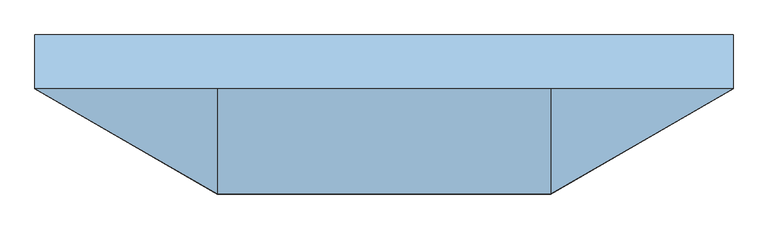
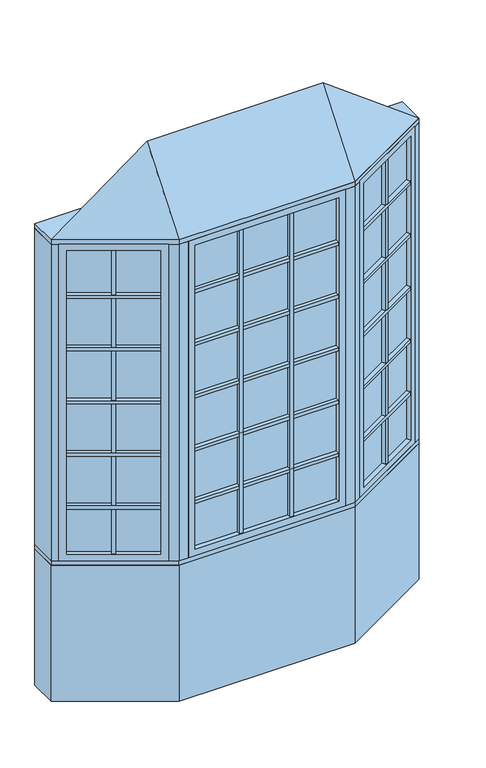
"""IFC4 building model written with IfcOpenShell, lengths in millimetres: window geometry, Pollard_Windows_Tudor Casement Bows and Bays : AML-BAY 30 AFR0518-10-500_GC."""

import ifcopenshell
import ifcopenshell.guid

model = None  # the IFC model being written
_history = None  # IfcOwnerHistory: only IFC2X3 demands one
_inside = {}  # id of a spatial element -> (the spatial element, [elements in it])
_under = {}  # id of a project, library or spatial element -> (it, [spatial elements below it])
_declared = {}  # id of a project -> (the project, [libraries it declares])
_typed = {}  # id of a type object -> (the type object, [elements of that type])
_made_of = {}  # id of a material, layer set ... -> (it, [elements and type objects made of it])


def new_model(schema):
    """Start an empty IFC model of exactly this schema.

    Asked for "IFC4X3", IfcOpenShell would pick the latest addendum, in which some entities
    have other attributes; the version numbers below select the first issue.
    IFC2X3 requires an IfcOwnerHistory on every rooted entity: one is made here for all.
    """
    global model, _history
    if schema == "IFC4X3":
        model = ifcopenshell.file(schema_version=(4, 3, 0, 0))
    else:
        model = ifcopenshell.file(schema=schema)
    _inside.clear()
    _under.clear()
    _declared.clear()
    _typed.clear()
    _made_of.clear()
    _history = None
    if model.schema == "IFC2X3":
        org = make("IfcOrganization", Name="unknown")
        user = make(
            "IfcPersonAndOrganization",
            ThePerson=make("IfcPerson", FamilyName="unknown"),
            TheOrganization=org,
        )
        app = make(
            "IfcApplication",
            ApplicationDeveloper=org,
            Version="unknown",
            ApplicationFullName="unknown",
            ApplicationIdentifier="unknown",
        )
        _history = make(
            "IfcOwnerHistory",
            OwningUser=user,
            OwningApplication=app,
            ChangeAction="ADDED",
            CreationDate=0,
        )
    return model


def make(cls, **values):
    """One entity of the class cls with the attributes given. An attribute that is None is left unset."""
    return model.create_entity(
        cls, **{name: value for name, value in values.items() if value is not None}
    )


def rooted(cls, **values):
    """An entity with a GlobalId (a new one), such as an element, a storey or a relation."""
    return make(cls, GlobalId=ifcopenshell.guid.new(), OwnerHistory=_history, **values)


def si_unit(unit_type, name, prefix=None):
    """IfcSIUnit, for example si_unit("LENGTHUNIT", "METRE", prefix="MILLI")."""
    return make("IfcSIUnit", UnitType=unit_type, Prefix=prefix, Name=name)


def assignment(units):
    """IfcUnitAssignment: the units of a project."""
    return None if units is None else make("IfcUnitAssignment", Units=units)


def point(xyz):
    """IfcCartesianPoint."""
    return None if xyz is None else make("IfcCartesianPoint", Coordinates=xyz)


def direction(xyz):
    """IfcDirection."""
    return None if xyz is None else make("IfcDirection", DirectionRatios=xyz)


def frame(location, z_axis=None, x_axis=None):
    """IfcAxis2Placement3D, a coordinate frame: its origin and axes. An axis left out is left unset."""
    return make(
        "IfcAxis2Placement3D",
        Location=point(location),
        Axis=direction(z_axis),
        RefDirection=direction(x_axis),
    )


def origin():
    """The frame at (0, 0, 0) with its axes left unset."""
    return frame((0.0, 0.0, 0.0))


def origin_with_axes():
    """The frame at (0, 0, 0) with the z axis (0, 0, 1) and the x axis (1, 0, 0) written out."""
    return frame((0.0, 0.0, 0.0), z_axis=(0.0, 0.0, 1.0), x_axis=(1.0, 0.0, 0.0))


def place(relative_to, where):
    """IfcLocalPlacement: puts the frame where relative to a parent placement (None: the world)."""
    return make(
        "IfcLocalPlacement", PlacementRelTo=relative_to, RelativePlacement=where
    )


def context(
    kind, dimensions, precision=None, world=None, true_north=None, identifier=None
):
    """IfcGeometricRepresentationContext, for example the 3D "Model" context."""
    return make(
        "IfcGeometricRepresentationContext",
        ContextIdentifier=identifier,
        ContextType=kind,
        CoordinateSpaceDimension=dimensions,
        Precision=precision,
        WorldCoordinateSystem=world,
        TrueNorth=true_north,
    )


def project(units=None, contexts=None):
    """IfcProject with its units and contexts."""
    return rooted(
        "IfcProject",
        Name="project",
        RepresentationContexts=contexts,
        UnitsInContext=assignment(units),
    )


def spatial(cls, under=None, at=None, **own):
    """A site, building, storey or space (cls), placed at a placement, below another one or the project."""
    s = rooted(cls, ObjectPlacement=at, **own)
    if under is not None:
        _under.setdefault(under.id(), (under, []))[1].append(s)
    return s


def polyline(points):
    """IfcPolyline through the points."""
    return make("IfcPolyline", Points=[point(p) for p in points])


def outline(outer, holes=None, kind="AREA"):
    """IfcArbitraryClosedProfileDef: a profile drawn as a closed curve; with holes, ...WithVoids."""
    if holes is None:
        return make("IfcArbitraryClosedProfileDef", ProfileType=kind, OuterCurve=outer)
    return make(
        "IfcArbitraryProfileDefWithVoids",
        ProfileType=kind,
        OuterCurve=outer,
        InnerCurves=holes,
    )


def extrude(swept, where, along, depth):
    """IfcExtrudedAreaSolid: the profile swept, set in the frame where, extruded along a direction by depth."""
    return make(
        "IfcExtrudedAreaSolid",
        SweptArea=swept,
        Position=where,
        ExtrudedDirection=direction(along),
        Depth=depth,
    )


def faces_of(points, faces, orient=None, outer=None):
    """IfcFace entities. A face is a list of loops; a loop is a list of indices into points, from 0.

    orient and outer hold one flag for each loop. By default every Orientation is true, the
    first loop of a face is its IfcFaceOuterBound and the others are IfcFaceBound.
    """
    made = []
    for i, loops in enumerate(faces):
        bounds = []
        for j, loop in enumerate(loops):
            is_outer = j == 0 if outer is None else outer[i][j]
            bounds.append(
                make(
                    "IfcFaceOuterBound" if is_outer else "IfcFaceBound",
                    Bound=make("IfcPolyLoop", Polygon=[points[k] for k in loop]),
                    Orientation=True if orient is None else orient[i][j],
                )
            )
        made.append(make("IfcFace", Bounds=bounds))
    return made


def faceted_brep(points, faces, orient=None, outer=None, voids=None):
    """IfcFacetedBrep: a solid bounded by flat faces; with voids (closed shells), ...WithVoids."""
    shared = [point(p) for p in points]
    hull = make("IfcClosedShell", CfsFaces=faces_of(shared, faces, orient, outer))
    if voids is None:
        return make("IfcFacetedBrep", Outer=hull)
    return make(
        "IfcFacetedBrepWithVoids",
        Outer=hull,
        Voids=[
            make(cls, CfsFaces=faces_of(shared, fs, o, b)) for cls, fs, o, b in voids
        ],
    )


def shape(context_of_items, identifier, shape_type, items):
    """IfcShapeRepresentation: the items that make up one representation, for example the "Body"."""
    return make(
        "IfcShapeRepresentation",
        ContextOfItems=context_of_items,
        RepresentationIdentifier=identifier,
        RepresentationType=shape_type,
        Items=items,
    )


def source(mapping_origin, context_of_items, identifier, shape_type, items):
    """IfcRepresentationMap: a shape defined once, which mapped items show again and again."""
    return make(
        "IfcRepresentationMap",
        MappingOrigin=mapping_origin,
        MappedRepresentation=shape(context_of_items, identifier, shape_type, items),
    )


def transform(
    local_origin,
    x_axis=None,
    y_axis=None,
    z_axis=None,
    scale=None,
    scale2=None,
    scale3=None,
    uniform=True,
):
    """IfcCartesianTransformationOperator3D, or its non-uniform kind. x_axis, y_axis, z_axis: its Axis1, 2, 3."""
    if uniform:
        return make(
            "IfcCartesianTransformationOperator3D",
            Axis1=direction(x_axis),
            Axis2=direction(y_axis),
            LocalOrigin=point(local_origin),
            Scale=scale,
            Axis3=direction(z_axis),
        )
    return make(
        "IfcCartesianTransformationOperator3DnonUniform",
        Axis1=direction(x_axis),
        Axis2=direction(y_axis),
        LocalOrigin=point(local_origin),
        Scale=scale,
        Axis3=direction(z_axis),
        Scale2=scale2,
        Scale3=scale3,
    )


def mapped(mapping_source, mapping_target):
    """IfcMappedItem: shows the shape of a source again, moved by a transform."""
    return make(
        "IfcMappedItem", MappingSource=mapping_source, MappingTarget=mapping_target
    )


def made_of(thing, what):
    """Note that an element or type object is made of a material, layer set ...; save() writes the relation."""
    if what is not None:
        _made_of.setdefault(what.id(), (what, []))[1].append(thing)
    return thing


def element(
    cls,
    number,
    at=None,
    inside=None,
    cuts=None,
    type_object=None,
    material=None,
    context=None,
    identifier="Body",
    shape_type=None,
    held_by="IfcProductDefinitionShape",
    body=None,
    shapes=None,
    **own,
):
    """One element of the class cls, such as IfcWall. Its Tag is "e" and its number.

    at: its placement. inside: the storey or other place that contains it. cuts: it is an
    opening in that element (IfcRelVoidsElement). A single representation is given by context,
    identifier, shape_type and body (its items); several are given by shapes. held_by: the class
    of the entity that holds the representations. save() writes the other relations.
    """
    e = rooted(cls, Tag="e%d" % number, ObjectPlacement=at, **own)
    if body is not None:
        shapes = [shape(context, identifier, shape_type, body)]
    if shapes is not None:
        e.Representation = make(held_by, Representations=shapes)
    if inside is not None:
        _inside.setdefault(inside.id(), (inside, []))[1].append(e)
    if cuts is not None:
        rooted(
            "IfcRelVoidsElement", RelatingBuildingElement=cuts, RelatedOpeningElement=e
        )
    if type_object is not None:
        _typed.setdefault(type_object.id(), (type_object, []))[1].append(e)
    return made_of(e, material)


def aggregate(whole, parts):
    """IfcRelAggregates: a whole, such as a stair, and the parts it consists of."""
    return rooted("IfcRelAggregates", RelatingObject=whole, RelatedObjects=parts)


def save(model, path):
    """Write the relations noted so far, then the file.

    IfcRelAggregates (storeys below a building ...), IfcRelContainedInSpatialStructure (elements
    in a storey), IfcRelDefinesByType, IfcRelAssociatesMaterial and IfcRelDeclares: one each for
    every whole, place, type object, material and project.
    """
    for whole, parts in _under.values():
        aggregate(whole, parts)
    for where, things in _inside.values():
        rooted(
            "IfcRelContainedInSpatialStructure",
            RelatedElements=things,
            RelatingStructure=where,
        )
    for kind, things in _typed.values():
        rooted("IfcRelDefinesByType", RelatedObjects=things, RelatingType=kind)
    for what, things in _made_of.values():
        rooted("IfcRelAssociatesMaterial", RelatedObjects=things, RelatingMaterial=what)
    for by, libraries in _declared.values():
        rooted("IfcRelDeclares", RelatingContext=by, RelatedDefinitions=libraries)
    model.write(path)


def window_f2461791(model_context):
    return source(origin(), model_context, "Body", "SolidModel", [
        extrude(outline(polyline([(545.7305346, -327.3537343), (534.7305346, -308.3011754), (915.6135794, -88.3982469), (926.6135794, -107.4508058), (545.7305346, -327.3537343)])), frame((0.0, 0.0, 1690.998), z_axis=(0.0, 0.0, 1.0), x_axis=(1.0, 0.0, 0.0)), (0.0, 0.0, 1.0), 18.0),
        extrude(outline(polyline([(532.1905346, -303.9017664), (521.1905346, -284.8492075), (902.0735794, -64.946279), (913.0735794, -83.9988379), (532.1905346, -303.9017664)])), frame((0.0, 0.0, 1690.998), z_axis=(0.0, 0.0, 1.0), x_axis=(1.0, 0.0, 0.0)), (0.0, 0.0, 1.0), 18.0),
        extrude(outline(polyline([(545.7305346, -327.3537343), (534.7305346, -308.3011754), (915.6135794, -88.3982469), (926.6135794, -107.4508058), (545.7305346, -327.3537343)])), frame((0.0, 0.0, 1090.998), z_axis=(0.0, 0.0, 1.0), x_axis=(1.0, 0.0, 0.0)), (0.0, 0.0, 1.0), 18.0),
        extrude(outline(polyline([(532.1905346, -303.9017664), (521.1905346, -284.8492075), (902.0735794, -64.946279), (913.0735794, -83.9988379), (532.1905346, -303.9017664)])), frame((0.0, 0.0, 1090.998), z_axis=(0.0, 0.0, 1.0), x_axis=(1.0, 0.0, 0.0)), (0.0, 0.0, 1.0), 18.0),
        extrude(outline(polyline([(545.7305346, -327.3537343), (534.7305346, -308.3011754), (915.6135794, -88.3982469), (926.6135794, -107.4508058), (545.7305346, -327.3537343)])), frame((0.0, 0.0, 1390.998), z_axis=(0.0, 0.0, 1.0), x_axis=(1.0, 0.0, 0.0)), (0.0, 0.0, 1.0), 18.0),
        extrude(outline(polyline([(532.1905346, -303.9017664), (521.1905346, -284.8492075), (902.0735794, -64.946279), (913.0735794, -83.9988379), (532.1905346, -303.9017664)])), frame((0.0, 0.0, 1390.998), z_axis=(0.0, 0.0, 1.0), x_axis=(1.0, 0.0, 0.0)), (0.0, 0.0, 1.0), 18.0),
        extrude(outline(polyline([(545.7305346, -327.3537343), (534.7305346, -308.3011754), (915.6135794, -88.3982469), (926.6135794, -107.4508058), (545.7305346, -327.3537343)])), frame((0.0, 0.0, 1990.998), z_axis=(0.0, 0.0, 1.0), x_axis=(1.0, 0.0, 0.0)), (0.0, 0.0, 1.0), 18.0),
        extrude(outline(polyline([(532.1905346, -303.9017664), (521.1905346, -284.8492075), (902.0735794, -64.946279), (913.0735794, -83.9988379), (532.1905346, -303.9017664)])), frame((0.0, 0.0, 1990.998), z_axis=(0.0, 0.0, 1.0), x_axis=(1.0, 0.0, 0.0)), (0.0, 0.0, 1.0), 18.0),
        extrude(outline(polyline([(545.7305346, -327.3537343), (534.7305346, -308.3011754), (915.6135794, -88.3982469), (926.6135794, -107.4508058), (545.7305346, -327.3537343)])), frame((0.0, 0.0, 2290.998), z_axis=(0.0, 0.0, 1.0), x_axis=(1.0, 0.0, 0.0)), (0.0, 0.0, 1.0), 18.0),
        extrude(outline(polyline([(532.1905346, -303.9017664), (521.1905346, -284.8492075), (902.0735794, -64.946279), (913.0735794, -83.9988379), (532.1905346, -303.9017664)])), frame((0.0, 0.0, 2290.998), z_axis=(0.0, 0.0, 1.0), x_axis=(1.0, 0.0, 0.0)), (0.0, 0.0, 1.0), 18.0),
        extrude(outline(polyline([(732.9662856, -193.8497112), (743.9662856, -212.9022701), (728.3778284, -221.9022701), (717.3778284, -202.8497112), (732.9662856, -193.8497112)])), frame((0.0, 0.0, 835.8628), z_axis=(0.0, 0.0, 1.0), x_axis=(1.0, 0.0, 0.0)), (0.0, 0.0, 1.0), 1728.2704),
        extrude(outline(polyline([(730.4262856, -189.4503021), (714.8378284, -198.4503021), (703.8378284, -179.3977432), (719.4262856, -170.3977432), (730.4262856, -189.4503021)])), frame((0.0, 0.0, 835.8628), z_axis=(0.0, 0.0, 1.0), x_axis=(1.0, 0.0, 0.0)), (0.0, 0.0, 1.0), 1728.2704),
        extrude(outline(polyline([(926.612102, -82.0482469), (523.7320119, -314.6511754), (521.1920119, -310.2517664), (924.072102, -77.6488379), (926.612102, -82.0482469)])), frame((0.0, 0.0, 823.1628), z_axis=(0.0, 0.0, 1.0), x_axis=(1.0, 0.0, 0.0)), (0.0, 0.0, 1.0), 1753.6704),
        faceted_brep([(915.6135794, -88.3982469, 835.8628), (928.3135794, -110.3952922, 835.8628), (928.3135794, -110.3952922, 2564.1332), (915.6135794, -88.3982469, 2564.1332), (924.072102, -77.6488379, 823.1628), (926.612102, -82.0482469, 823.1628), (926.612102, -82.0482469, 2576.8332), (924.072102, -77.6488379, 2576.8332), (900.3735794, -62.0017926, 835.8628), (913.0735794, -83.9988379, 835.8628), (913.0735794, -83.9988379, 2564.1332), (900.3735794, -62.0017926, 2564.1332), (959.3734073, -92.4628922, 799.998), (931.4334073, -44.0693926, 799.998), (931.4334073, -44.0693926, 2599.998), (959.3734073, -92.4628922, 2599.998), (547.4305346, -330.2982207, 2564.1332), (534.7305346, -308.3011754, 2564.1332), (523.7320119, -314.6511754, 2576.8332), (521.1920119, -310.2517664, 2576.8332), (532.1905346, -303.9017664, 2564.1332), (519.4905346, -281.9047211, 2564.1332), (488.4307067, -299.8371211, 2599.998), (516.3707067, -348.2306207, 2599.998), (547.4305346, -330.2982207, 835.8628), (534.7305346, -308.3011754, 835.8628), (523.7320119, -314.6511754, 823.1628), (521.1920119, -310.2517664, 823.1628), (532.1905346, -303.9017664, 835.8628), (519.4905346, -281.9047211, 835.8628), (488.4307067, -299.8371211, 799.998), (516.3707067, -348.2306207, 799.998)], [[[0, 1, 2, 3]], [[4, 5, 6, 7]], [[8, 9, 10, 11]], [[12, 13, 14, 15]], [[3, 2, 16, 17]], [[7, 6, 18, 19]], [[11, 10, 20, 21]], [[15, 14, 22, 23]], [[17, 16, 24, 25]], [[19, 18, 26, 27]], [[21, 20, 28, 29]], [[23, 22, 30, 31]], [[25, 24, 1, 0]], [[5, 26, 18, 6], [3, 17, 25, 0]], [[27, 26, 5, 4]], [[7, 19, 27, 4], [9, 28, 20, 10]], [[29, 28, 9, 8]], [[13, 30, 22, 14], [11, 21, 29, 8]], [[31, 30, 13, 12]], [[15, 23, 31, 12], [1, 24, 16, 2]]]),
        extrude(outline(polyline([(145.3016788, -347.8306207), (145.3016788, -369.8306207), (127.3016788, -369.8306207), (127.3016788, -347.8306207), (145.3016788, -347.8306207)])), frame((0.0, 0.0, 835.8628), z_axis=(0.0, 0.0, 1.0), x_axis=(1.0, 0.0, 0.0)), (0.0, 0.0, 1.0), 1728.2704),
        extrude(outline(polyline([(145.3016788, -342.7506207), (127.3016788, -342.7506207), (127.3016788, -320.7506207), (145.3016788, -320.7506207), (145.3016788, -342.7506207)])), frame((0.0, 0.0, 835.8628), z_axis=(0.0, 0.0, 1.0), x_axis=(1.0, 0.0, 0.0)), (0.0, 0.0, 1.0), 1728.2704),
        extrude(outline(polyline([(-127.3016788, -347.8306207), (-127.3016788, -369.8306207), (-145.3016788, -369.8306207), (-145.3016788, -347.8306207), (-127.3016788, -347.8306207)])), frame((0.0, 0.0, 835.8628), z_axis=(0.0, 0.0, 1.0), x_axis=(1.0, 0.0, 0.0)), (0.0, 0.0, 1.0), 1728.2704),
        extrude(outline(polyline([(-127.3016788, -342.7506207), (-145.3016788, -342.7506207), (-145.3016788, -320.7506207), (-127.3016788, -320.7506207), (-127.3016788, -342.7506207)])), frame((0.0, 0.0, 835.8628), z_axis=(0.0, 0.0, 1.0), x_axis=(1.0, 0.0, 0.0)), (0.0, 0.0, 1.0), 1728.2704),
        extrude(outline(polyline([(-387.2046365, -369.8306207), (-387.2046365, -347.8306207), (387.2046365, -347.8306207), (387.2046365, -369.8306207), (-387.2046365, -369.8306207)])), frame((0.0, 0.0, 1090.998), z_axis=(0.0, 0.0, 1.0), x_axis=(1.0, 0.0, 0.0)), (0.0, 0.0, 1.0), 18.0),
        extrude(outline(polyline([(-387.2046365, -342.7506207), (-387.2046365, -320.7506207), (387.2046365, -320.7506207), (387.2046365, -342.7506207), (-387.2046365, -342.7506207)])), frame((0.0, 0.0, 1090.998), z_axis=(0.0, 0.0, 1.0), x_axis=(1.0, 0.0, 0.0)), (0.0, 0.0, 1.0), 18.0),
        extrude(outline(polyline([(-387.2046365, -369.8306207), (-387.2046365, -347.8306207), (387.2046365, -347.8306207), (387.2046365, -369.8306207), (-387.2046365, -369.8306207)])), frame((0.0, 0.0, 1390.998), z_axis=(0.0, 0.0, 1.0), x_axis=(1.0, 0.0, 0.0)), (0.0, 0.0, 1.0), 18.0),
        extrude(outline(polyline([(-387.2046365, -342.7506207), (-387.2046365, -320.7506207), (387.2046365, -320.7506207), (387.2046365, -342.7506207), (-387.2046365, -342.7506207)])), frame((0.0, 0.0, 1390.998), z_axis=(0.0, 0.0, 1.0), x_axis=(1.0, 0.0, 0.0)), (0.0, 0.0, 1.0), 18.0),
        extrude(outline(polyline([(-387.2046365, -369.8306207), (-387.2046365, -347.8306207), (387.2046365, -347.8306207), (387.2046365, -369.8306207), (-387.2046365, -369.8306207)])), frame((0.0, 0.0, 1690.998), z_axis=(0.0, 0.0, 1.0), x_axis=(1.0, 0.0, 0.0)), (0.0, 0.0, 1.0), 18.0),
        extrude(outline(polyline([(-387.2046365, -342.7506207), (-387.2046365, -320.7506207), (387.2046365, -320.7506207), (387.2046365, -342.7506207), (-387.2046365, -342.7506207)])), frame((0.0, 0.0, 1690.998), z_axis=(0.0, 0.0, 1.0), x_axis=(1.0, 0.0, 0.0)), (0.0, 0.0, 1.0), 18.0),
        extrude(outline(polyline([(-387.2046365, -369.8306207), (-387.2046365, -347.8306207), (387.2046365, -347.8306207), (387.2046365, -369.8306207), (-387.2046365, -369.8306207)])), frame((0.0, 0.0, 1990.998), z_axis=(0.0, 0.0, 1.0), x_axis=(1.0, 0.0, 0.0)), (0.0, 0.0, 1.0), 18.0),
        extrude(outline(polyline([(-387.2046365, -342.7506207), (-387.2046365, -320.7506207), (387.2046365, -320.7506207), (387.2046365, -342.7506207), (-387.2046365, -342.7506207)])), frame((0.0, 0.0, 1990.998), z_axis=(0.0, 0.0, 1.0), x_axis=(1.0, 0.0, 0.0)), (0.0, 0.0, 1.0), 18.0),
        extrude(outline(polyline([(-926.6135794, -107.4508058), (-915.6135794, -88.3982469), (-534.7305346, -308.3011754), (-545.7305346, -327.3537343), (-926.6135794, -107.4508058)])), frame((0.0, 0.0, 1090.998), z_axis=(0.0, 0.0, 1.0), x_axis=(1.0, 0.0, 0.0)), (0.0, 0.0, 1.0), 18.0),
        extrude(outline(polyline([(-913.0735794, -83.9988379), (-902.0735794, -64.946279), (-521.1905346, -284.8492075), (-532.1905346, -303.9017664), (-913.0735794, -83.9988379)])), frame((0.0, 0.0, 1090.998), z_axis=(0.0, 0.0, 1.0), x_axis=(1.0, 0.0, 0.0)), (0.0, 0.0, 1.0), 18.0),
        extrude(outline(polyline([(-926.6135794, -107.4508058), (-915.6135794, -88.3982469), (-534.7305346, -308.3011754), (-545.7305346, -327.3537343), (-926.6135794, -107.4508058)])), frame((0.0, 0.0, 1390.998), z_axis=(0.0, 0.0, 1.0), x_axis=(1.0, 0.0, 0.0)), (0.0, 0.0, 1.0), 18.0),
        extrude(outline(polyline([(-913.0735794, -83.9988379), (-902.0735794, -64.946279), (-521.1905346, -284.8492075), (-532.1905346, -303.9017664), (-913.0735794, -83.9988379)])), frame((0.0, 0.0, 1390.998), z_axis=(0.0, 0.0, 1.0), x_axis=(1.0, 0.0, 0.0)), (0.0, 0.0, 1.0), 18.0),
        extrude(outline(polyline([(-926.6135794, -107.4508058), (-915.6135794, -88.3982469), (-534.7305346, -308.3011754), (-545.7305346, -327.3537343), (-926.6135794, -107.4508058)])), frame((0.0, 0.0, 1690.998), z_axis=(0.0, 0.0, 1.0), x_axis=(1.0, 0.0, 0.0)), (0.0, 0.0, 1.0), 18.0),
        extrude(outline(polyline([(-913.0735794, -83.9988379), (-902.0735794, -64.946279), (-521.1905346, -284.8492075), (-532.1905346, -303.9017664), (-913.0735794, -83.9988379)])), frame((0.0, 0.0, 1690.998), z_axis=(0.0, 0.0, 1.0), x_axis=(1.0, 0.0, 0.0)), (0.0, 0.0, 1.0), 18.0),
        extrude(outline(polyline([(-926.6135794, -107.4508058), (-915.6135794, -88.3982469), (-534.7305346, -308.3011754), (-545.7305346, -327.3537343), (-926.6135794, -107.4508058)])), frame((0.0, 0.0, 1990.998), z_axis=(0.0, 0.0, 1.0), x_axis=(1.0, 0.0, 0.0)), (0.0, 0.0, 1.0), 18.0),
        extrude(outline(polyline([(-913.0735794, -83.9988379), (-902.0735794, -64.946279), (-521.1905346, -284.8492075), (-532.1905346, -303.9017664), (-913.0735794, -83.9988379)])), frame((0.0, 0.0, 1990.998), z_axis=(0.0, 0.0, 1.0), x_axis=(1.0, 0.0, 0.0)), (0.0, 0.0, 1.0), 18.0),
        extrude(outline(polyline([(-926.6135794, -107.4508058), (-915.6135794, -88.3982469), (-534.7305346, -308.3011754), (-545.7305346, -327.3537343), (-926.6135794, -107.4508058)])), frame((0.0, 0.0, 2290.998), z_axis=(0.0, 0.0, 1.0), x_axis=(1.0, 0.0, 0.0)), (0.0, 0.0, 1.0), 18.0),
        extrude(outline(polyline([(-913.0735794, -83.9988379), (-902.0735794, -64.946279), (-521.1905346, -284.8492075), (-532.1905346, -303.9017664), (-913.0735794, -83.9988379)])), frame((0.0, 0.0, 2290.998), z_axis=(0.0, 0.0, 1.0), x_axis=(1.0, 0.0, 0.0)), (0.0, 0.0, 1.0), 18.0),
        extrude(outline(polyline([(-387.2046365, -369.8306207), (-387.2046365, -347.8306207), (387.2046365, -347.8306207), (387.2046365, -369.8306207), (-387.2046365, -369.8306207)])), frame((0.0, 0.0, 2290.998), z_axis=(0.0, 0.0, 1.0), x_axis=(1.0, 0.0, 0.0)), (0.0, 0.0, 1.0), 18.0),
        extrude(outline(polyline([(-387.2046365, -342.7506207), (-387.2046365, -320.7506207), (387.2046365, -320.7506207), (387.2046365, -342.7506207), (-387.2046365, -342.7506207)])), frame((0.0, 0.0, 2290.998), z_axis=(0.0, 0.0, 1.0), x_axis=(1.0, 0.0, 0.0)), (0.0, 0.0, 1.0), 18.0),
        extrude(outline(polyline([(-717.3778284, -202.8497112), (-728.3778284, -221.9022701), (-743.9662856, -212.9022701), (-732.9662856, -193.8497112), (-717.3778284, -202.8497112)])), frame((0.0, 0.0, 835.8628), z_axis=(0.0, 0.0, 1.0), x_axis=(1.0, 0.0, 0.0)), (0.0, 0.0, 1.0), 1728.2704),
        extrude(outline(polyline([(-714.8378284, -198.4503021), (-730.4262856, -189.4503021), (-719.4262856, -170.3977432), (-703.8378284, -179.3977432), (-714.8378284, -198.4503021)])), frame((0.0, 0.0, 835.8628), z_axis=(0.0, 0.0, 1.0), x_axis=(1.0, 0.0, 0.0)), (0.0, 0.0, 1.0), 1728.2704),
        extrude(outline(polyline([(-523.7320119, -314.6511754), (-926.612102, -82.0482469), (-924.072102, -77.6488379), (-521.1920119, -310.2517664), (-523.7320119, -314.6511754)])), frame((0.0, 0.0, 823.1628), z_axis=(0.0, 0.0, 1.0), x_axis=(1.0, 0.0, 0.0)), (0.0, 0.0, 1.0), 1753.6704),
        faceted_brep([(-532.1905346, -303.9017664, 2564.1332), (-519.4905346, -281.9047211, 2564.1332), (-519.4905346, -281.9047211, 835.8628), (-532.1905346, -303.9017664, 835.8628), (-523.7320119, -314.6511754, 2576.8332), (-521.1920119, -310.2517664, 2576.8332), (-521.1920119, -310.2517664, 823.1628), (-523.7320119, -314.6511754, 823.1628), (-547.4305346, -330.2982207, 2564.1332), (-534.7305346, -308.3011754, 2564.1332), (-534.7305346, -308.3011754, 835.8628), (-547.4305346, -330.2982207, 835.8628), (-488.4307067, -299.8371211, 2599.998), (-516.3707067, -348.2306207, 2599.998), (-516.3707067, -348.2306207, 799.998), (-488.4307067, -299.8371211, 799.998), (-900.3735794, -62.0017926, 835.8628), (-913.0735794, -83.9988379, 835.8628), (-924.072102, -77.6488379, 823.1628), (-926.612102, -82.0482469, 823.1628), (-915.6135794, -88.3982469, 835.8628), (-928.3135794, -110.3952922, 835.8628), (-959.3734073, -92.4628922, 799.998), (-931.4334073, -44.0693926, 799.998), (-900.3735794, -62.0017926, 2564.1332), (-913.0735794, -83.9988379, 2564.1332), (-924.072102, -77.6488379, 2576.8332), (-926.612102, -82.0482469, 2576.8332), (-915.6135794, -88.3982469, 2564.1332), (-928.3135794, -110.3952922, 2564.1332), (-959.3734073, -92.4628922, 2599.998), (-931.4334073, -44.0693926, 2599.998)], [[[0, 1, 2, 3]], [[4, 5, 6, 7]], [[8, 9, 10, 11]], [[12, 13, 14, 15]], [[3, 2, 16, 17]], [[7, 6, 18, 19]], [[11, 10, 20, 21]], [[15, 14, 22, 23]], [[17, 16, 24, 25]], [[19, 18, 26, 27]], [[21, 20, 28, 29]], [[23, 22, 30, 31]], [[15, 23, 31, 12], [1, 24, 16, 2]], [[25, 24, 1, 0]], [[5, 26, 18, 6], [3, 17, 25, 0]], [[27, 26, 5, 4]], [[7, 19, 27, 4], [9, 28, 20, 10]], [[29, 28, 9, 8]], [[13, 30, 22, 14], [11, 21, 29, 8]], [[31, 30, 13, 12]]]),
        extrude(outline(polyline([(399.9046365, -347.8306207), (-399.9046365, -347.8306207), (-399.9046365, -342.7506207), (399.9046365, -342.7506207), (399.9046365, -347.8306207)])), frame((0.0, 0.0, 823.1628), z_axis=(0.0, 0.0, 1.0), x_axis=(1.0, 0.0, 0.0)), (0.0, 0.0, 1.0), 1753.6704),
        faceted_brep([(387.2046365, -347.8306207, 835.8628), (387.2046365, -373.2306207, 835.8628), (387.2046365, -373.2306207, 2564.1332), (387.2046365, -347.8306207, 2564.1332), (399.9046365, -342.7506207, 823.1628), (399.9046365, -347.8306207, 823.1628), (399.9046365, -347.8306207, 2576.8332), (399.9046365, -342.7506207, 2576.8332), (387.2046365, -317.3506207, 835.8628), (387.2046365, -342.7506207, 835.8628), (387.2046365, -342.7506207, 2564.1332), (387.2046365, -317.3506207, 2564.1332), (423.0694365, -373.2306207, 799.998), (423.0694365, -317.3506207, 799.998), (423.0694365, -317.3506207, 2599.998), (423.0694365, -373.2306207, 2599.998), (-387.2046365, -373.2306207, 2564.1332), (-387.2046365, -347.8306207, 2564.1332), (-399.9046365, -347.8306207, 2576.8332), (-399.9046365, -342.7506207, 2576.8332), (-387.2046365, -342.7506207, 2564.1332), (-387.2046365, -317.3506207, 2564.1332), (-423.0694365, -317.3506207, 2599.998), (-423.0694365, -373.2306207, 2599.998), (-387.2046365, -373.2306207, 835.8628), (-387.2046365, -347.8306207, 835.8628), (-399.9046365, -347.8306207, 823.1628), (-399.9046365, -342.7506207, 823.1628), (-387.2046365, -342.7506207, 835.8628), (-387.2046365, -317.3506207, 835.8628), (-423.0694365, -317.3506207, 799.998), (-423.0694365, -373.2306207, 799.998)], [[[0, 1, 2, 3]], [[4, 5, 6, 7]], [[8, 9, 10, 11]], [[12, 13, 14, 15]], [[3, 2, 16, 17]], [[7, 6, 18, 19]], [[11, 10, 20, 21]], [[15, 14, 22, 23]], [[17, 16, 24, 25]], [[19, 18, 26, 27]], [[21, 20, 28, 29]], [[23, 22, 30, 31]], [[15, 23, 31, 12], [1, 24, 16, 2]], [[25, 24, 1, 0]], [[5, 26, 18, 6], [3, 17, 25, 0]], [[27, 26, 5, 4]], [[7, 19, 27, 4], [9, 28, 20, 10]], [[29, 28, 9, 8]], [[13, 30, 22, 14], [11, 21, 29, 8]], [[31, 30, 13, 12]]]),
        faceted_brep([(990.0, -74.7806207, 2625.398), (473.0694365, -373.2306207, 2625.398), (-473.0694365, -373.2306207, 2625.398), (-990.0, -74.7806207, 2625.398), (-473.0694365, -74.7806207, 3006.398), (473.0694365, -74.7806207, 3006.398)], [[[0, 1, 2, 3]], [[3, 2, 4]], [[2, 1, 5, 4]], [[1, 0, 5]], [[0, 3, 4, 5]]]),
        extrude(outline(polyline([(-990.0, 77.6193793), (990.0, 77.6193793), (990.0, -74.7806207), (473.0694365, -373.2306207), (-473.0694365, -373.2306207), (-990.0, -74.7806207), (-990.0, 77.6193793)])), frame((0.0, 0.0, 2599.998), z_axis=(0.0, 0.0, 1.0), x_axis=(1.0, 0.0, 0.0)), (0.0, 0.0, 1.0), 25.4),
        extrude(outline(polyline([(-990.0, -74.7806207), (-990.0, 77.6193793), (-949.1645431, 77.6193793), (-949.1645431, -74.7806207), (-959.3734073, -92.4628922), (-990.0, -74.7806207)])), frame((0.0, 0.0, 799.998), z_axis=(0.0, 0.0, 1.0), x_axis=(1.0, 0.0, 0.0)), (0.0, 0.0, 1.0), 1800.0),
        extrude(outline(polyline([(990.0, 77.6193793), (990.0, -74.7806207), (959.3734073, -92.4628922), (949.1645431, -74.7806207), (949.1645431, 77.6193793), (990.0, 77.6193793)])), frame((0.0, 0.0, 799.998), z_axis=(0.0, 0.0, 1.0), x_axis=(1.0, 0.0, 0.0)), (0.0, 0.0, 1.0), 1800.0),
        extrude(outline(polyline([(473.0694365, -373.2306207), (423.0694365, -373.2306207), (423.0694365, -323.2306207), (459.6719769, -323.2306207), (491.3707067, -304.9293505), (516.3707067, -348.2306207), (473.0694365, -373.2306207)])), frame((0.0, 0.0, 799.998), z_axis=(0.0, 0.0, 1.0), x_axis=(1.0, 0.0, 0.0)), (0.0, 0.0, 1.0), 1800.0),
        extrude(outline(polyline([(-473.0694365, -373.2306207), (-516.3707067, -348.2306207), (-491.3707067, -304.9293505), (-459.6719769, -323.2306207), (-423.0694365, -323.2306207), (-423.0694365, -373.2306207), (-473.0694365, -373.2306207)])), frame((0.0, 0.0, 799.998), z_axis=(0.0, 0.0, 1.0), x_axis=(1.0, 0.0, 0.0)), (0.0, 0.0, 1.0), 1800.0),
        extrude(outline(polyline([(-473.0694365, -373.2306207), (-990.0, -74.7806207), (-990.0, 77.6193793), (-949.1645431, 77.6193793), (-432.2339796, -220.8306207), (432.2339796, -220.8306207), (949.1645431, 77.6193793), (990.0, 77.6193793), (990.0, -74.7806207), (473.0694365, -373.2306207), (-473.0694365, -373.2306207)])), frame((0.0, 0.0, 774.598), z_axis=(0.0, 0.0, 1.0), x_axis=(1.0, 0.0, 0.0)), (0.0, 0.0, 1.0), 25.4),
        extrude(outline(polyline([(-990.0, -74.7806207), (-990.0, 77.6193793), (-949.1645431, 77.6193793), (-432.2339796, -220.8306207), (432.2339796, -220.8306207), (949.1645431, 77.6193793), (990.0, 77.6193793), (990.0, -74.7806207), (473.0694365, -373.2306207), (-473.0694365, -373.2306207), (-990.0, -74.7806207)])), origin_with_axes(), (0.0, 0.0, 1.0), 774.598),
    ])


if __name__ == "__main__":
    model = new_model("IFC4")
    model_context = context("Model", 3, world=origin())
    ifc_project = project(units=[si_unit("LENGTHUNIT", "METRE", prefix="MILLI")], contexts=[model_context])
    site = spatial("IfcSite", under=ifc_project)
    building = spatial("IfcBuilding", under=site)
    placement = place(None, origin())
    window_shape = window_f2461791(model_context)
    element("IfcWindow", 1, ObjectType="Pollard_Windows_Tudor Casement Bows and Bays : AML-BAY 30 AFR0518-10-500_GC", at=placement, inside=building, context=model_context, shape_type="MappedRepresentation", body=[
        mapped(window_shape, transform((0.0, 0.0, 0.0), x_axis=(1.0, 0.0, 0.0), y_axis=(0.0, 1.0, 0.0), z_axis=(0.0, 0.0, 1.0))),
    ])
    save(model, "model.ifc")
